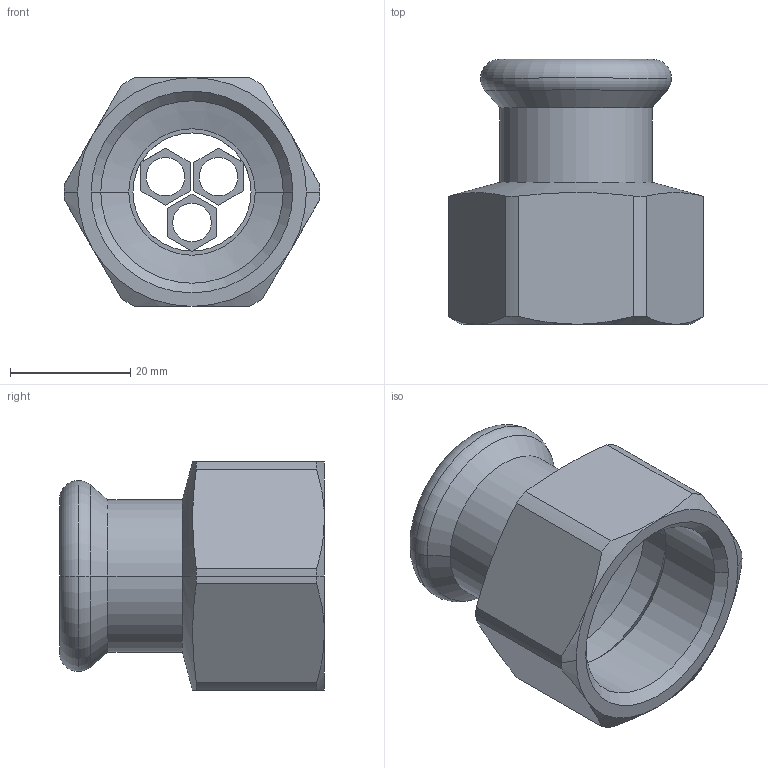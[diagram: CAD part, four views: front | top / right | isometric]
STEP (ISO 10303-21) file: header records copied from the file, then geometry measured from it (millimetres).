
FILE_DESCRIPTION(('OneSpaceDesigner STEP Export'),'2;1');
FILE_NAME('R2702 22xRp1.stp','2010-06-08T14:09:50',(''),(''),'OneSpace Designer STEP processor for AP214 (Solid Model)','OneSpace Modeling 15.00A 14-Mar-2007 (C) CoCreate Software GmbH','');
FILE_SCHEMA(('AUTOMOTIVE_DESIGN { 1 0 10303 214 1 1 1 1 }'));
Length unit declared in the file: millimetre
Products named in the file (2): R2702_22xRp1
Assembly tree (1 placements, depth 2):
  R2702_22xRp1
    R2702_22xRp1
Bounding box: 42.5 x 44 x 38 mm (x, y, z)
Volume: 15624.5 mm3; surface area: 10789.7 mm2
Topology: 1 solids, 1 shells, 87 faces, 219 edges, 136 vertices
Faces by surface type: plane 34, cylinder 29, cone 20, torus 4
Entity records: 2960 total; most frequent: CARTESIAN_POINT 1098, ORIENTED_EDGE 438, DIRECTION 297, EDGE_CURVE 219, VERTEX_POINT 136, VECTOR 115, LINE 115, EDGE_LOOP 97
